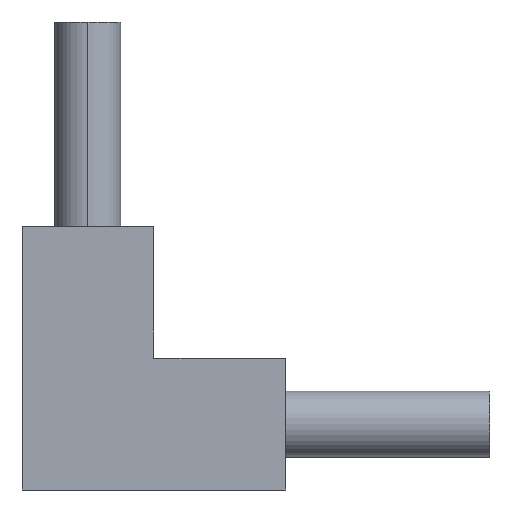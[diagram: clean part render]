
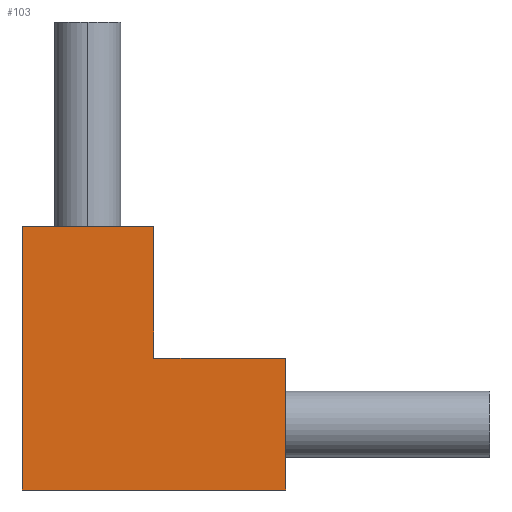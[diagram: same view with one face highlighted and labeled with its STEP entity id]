
A CAD part, front view. The second image highlights one B-rep face of the part: STEP entity #103.
In plain terms, the highlighted planar face has unit normal (0, -1, 0).
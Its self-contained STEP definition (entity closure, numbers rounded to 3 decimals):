
#6 = ORIENTED_EDGE ( 'NONE', *, *, #59, .F. ) ;
#7 = ORIENTED_EDGE ( 'NONE', *, *, #405, .T. ) ;
#10 = PLANE ( 'NONE',  #86 ) ;
#31 = EDGE_CURVE ( 'NONE', #140, #361, #340, .T. ) ;
#33 = VECTOR ( 'NONE', #204, 1000. ) ;
#35 = DIRECTION ( 'NONE',  ( -1., 0., 0. ) ) ;
#36 = LINE ( 'NONE', #447, #300 ) ;
#46 = VERTEX_POINT ( 'NONE', #285 ) ;
#52 = FACE_OUTER_BOUND ( 'NONE', #408, .T. ) ;
#59 = EDGE_CURVE ( 'NONE', #397, #157, #36, .T. ) ;
#63 = EDGE_CURVE ( 'NONE', #342, #157, #446, .T. ) ;
#85 = LINE ( 'NONE', #303, #261 ) ;
#86 = AXIS2_PLACEMENT_3D ( 'NONE', #214, #182, #391 ) ;
#95 = DIRECTION ( 'NONE',  ( 0., 0., 1. ) ) ;
#103 = ADVANCED_FACE ( 'NONE', ( #52 ), #10, .F. ) ;
#104 = CARTESIAN_POINT ( 'NONE',  ( 10., -10., 40. ) ) ;
#110 = ORIENTED_EDGE ( 'NONE', *, *, #63, .T. ) ;
#111 = CARTESIAN_POINT ( 'NONE',  ( -10., -10., 40. ) ) ;
#129 = ORIENTED_EDGE ( 'NONE', *, *, #402, .T. ) ;
#140 = VERTEX_POINT ( 'NONE', #252 ) ;
#157 = VERTEX_POINT ( 'NONE', #427 ) ;
#162 = VECTOR ( 'NONE', #95, 1000. ) ;
#164 = CARTESIAN_POINT ( 'NONE',  ( 30., -10., 20. ) ) ;
#167 = ORIENTED_EDGE ( 'NONE', *, *, #31, .T. ) ;
#171 = DIRECTION ( 'NONE',  ( 1., 0., 0. ) ) ;
#182 = DIRECTION ( 'NONE',  ( 0., 1., 0. ) ) ;
#197 = DIRECTION ( 'NONE',  ( 0., 0., -1. ) ) ;
#204 = DIRECTION ( 'NONE',  ( 0., 0., -1. ) ) ;
#214 = CARTESIAN_POINT ( 'NONE',  ( 10., -10., 40. ) ) ;
#252 = CARTESIAN_POINT ( 'NONE',  ( -10., -10., 40. ) ) ;
#261 = VECTOR ( 'NONE', #449, 1000. ) ;
#285 = CARTESIAN_POINT ( 'NONE',  ( 30., -10., 0. ) ) ;
#300 = VECTOR ( 'NONE', #197, 1000. ) ;
#301 = EDGE_CURVE ( 'NONE', #140, #397, #419, .T. ) ;
#303 = CARTESIAN_POINT ( 'NONE',  ( 10., -10., 0. ) ) ;
#316 = VECTOR ( 'NONE', #171, 1000. ) ;
#321 = CARTESIAN_POINT ( 'NONE',  ( 30., -10., 20. ) ) ;
#340 = LINE ( 'NONE', #111, #33 ) ;
#342 = VERTEX_POINT ( 'NONE', #347 ) ;
#347 = CARTESIAN_POINT ( 'NONE',  ( 30., -10., 20. ) ) ;
#361 = VERTEX_POINT ( 'NONE', #451 ) ;
#377 = CARTESIAN_POINT ( 'NONE',  ( 10., -10., 40. ) ) ;
#391 = DIRECTION ( 'NONE',  ( -1., 0., 0. ) ) ;
#397 = VERTEX_POINT ( 'NONE', #377 ) ;
#402 = EDGE_CURVE ( 'NONE', #46, #342, #450, .T. ) ;
#405 = EDGE_CURVE ( 'NONE', #361, #46, #85, .T. ) ;
#408 = EDGE_LOOP ( 'NONE', ( #167, #7, #129, #110, #6, #411 ) ) ;
#411 = ORIENTED_EDGE ( 'NONE', *, *, #301, .F. ) ;
#419 = LINE ( 'NONE', #104, #316 ) ;
#421 = VECTOR ( 'NONE', #35, 1000. ) ;
#427 = CARTESIAN_POINT ( 'NONE',  ( 10., -10., 20. ) ) ;
#446 = LINE ( 'NONE', #321, #421 ) ;
#447 = CARTESIAN_POINT ( 'NONE',  ( 10., -10., 40. ) ) ;
#449 = DIRECTION ( 'NONE',  ( 1., 0., 0. ) ) ;
#450 = LINE ( 'NONE', #164, #162 ) ;
#451 = CARTESIAN_POINT ( 'NONE',  ( -10., -10., 0. ) ) ;
